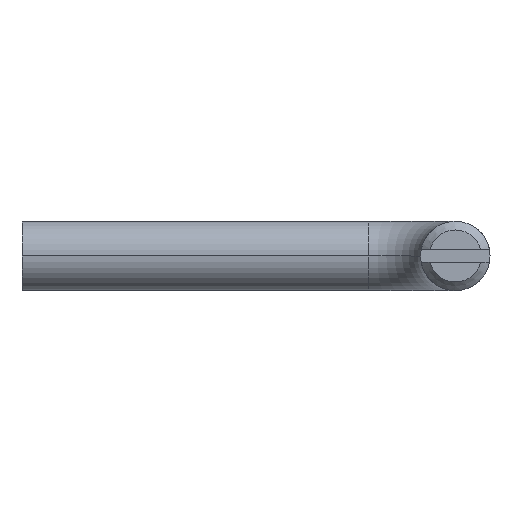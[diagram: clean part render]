
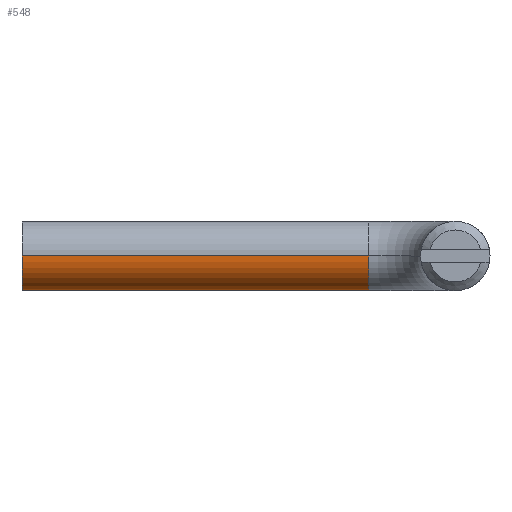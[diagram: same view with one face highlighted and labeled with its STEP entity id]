
A CAD part, front view. The second image highlights one B-rep face of the part: STEP entity #548.
In plain terms, the highlighted cylindrical face has radius 4 mm (diameter 8 mm), a partial arc.
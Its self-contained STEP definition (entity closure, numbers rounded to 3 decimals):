
#525=VECTOR('Line Direction',#524,1.) ;
#539=VECTOR('Line Direction',#538,1.) ;
#500=DIRECTION('Axis2P3D Direction',(-1.,0.,0.)) ;
#519=DIRECTION('Axis2P3D Direction',(-1.,0.,0.)) ;
#520=DIRECTION('Axis2P3D XDirection',(0.,-1.,0.)) ;
#524=DIRECTION('Vector Direction',(-1.,0.,0.)) ;
#531=DIRECTION('Axis2P3D Direction',(-1.,0.,0.)) ;
#538=DIRECTION('Vector Direction',(-1.,0.,0.)) ;
#499=CARTESIAN_POINT('Axis2P3D Location',(884.,-470.,105.)) ;
#503=CARTESIAN_POINT('Vertex',(884.,-466.,105.)) ;
#505=CARTESIAN_POINT('Vertex',(884.,-474.,105.)) ;
#518=CARTESIAN_POINT('Axis2P3D Location',(904.,-470.,105.)) ;
#523=CARTESIAN_POINT('Line Origine',(904.,-466.,105.)) ;
#527=CARTESIAN_POINT('Vertex',(924.,-466.,105.)) ;
#530=CARTESIAN_POINT('Axis2P3D Location',(924.,-470.,105.)) ;
#534=CARTESIAN_POINT('Vertex',(924.,-474.,105.)) ;
#537=CARTESIAN_POINT('Line Origine',(904.,-474.,105.)) ;
#501=AXIS2_PLACEMENT_3D('Circle Axis2P3D',#499,#500,$) ;
#521=AXIS2_PLACEMENT_3D('Cylinder Axis2P3D',#518,#519,#520) ;
#532=AXIS2_PLACEMENT_3D('Circle Axis2P3D',#530,#531,$) ;
#507=EDGE_CURVE('',#504,#506,#502,.T.) ;
#529=EDGE_CURVE('',#528,#504,#526,.T.) ;
#536=EDGE_CURVE('',#528,#535,#533,.T.) ;
#541=EDGE_CURVE('',#535,#506,#540,.T.) ;
#543=ORIENTED_EDGE('',*,*,#529,.F.) ;
#544=ORIENTED_EDGE('',*,*,#536,.T.) ;
#545=ORIENTED_EDGE('',*,*,#541,.T.) ;
#546=ORIENTED_EDGE('',*,*,#507,.F.) ;
#526=LINE('Line',#523,#525) ;
#540=LINE('Line',#537,#539) ;
#548=ADVANCED_FACE('\X2\51E04F554F53\X0\.2',(#547),#522,.T.) ;
#502=CIRCLE('generated circle',#501,4.) ;
#533=CIRCLE('generated circle',#532,4.) ;
#522=CYLINDRICAL_SURFACE('generated cylinder',#521,4.) ;
#504=VERTEX_POINT('',#503) ;
#506=VERTEX_POINT('',#505) ;
#528=VERTEX_POINT('',#527) ;
#535=VERTEX_POINT('',#534) ;
#542=EDGE_LOOP('',(#543,#544,#545,#546)) ;
#547=FACE_OUTER_BOUND('',#542,.T.) ;
